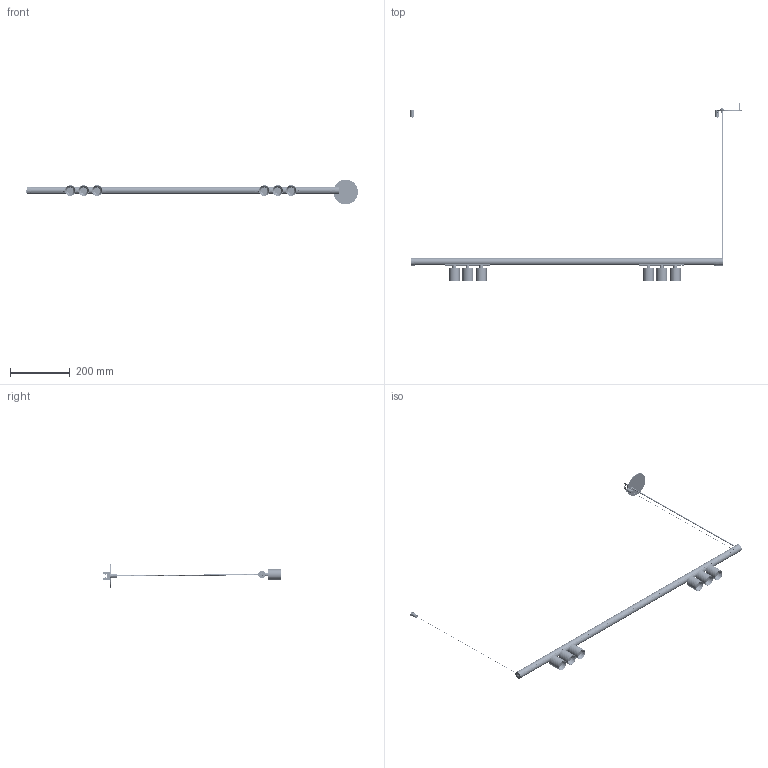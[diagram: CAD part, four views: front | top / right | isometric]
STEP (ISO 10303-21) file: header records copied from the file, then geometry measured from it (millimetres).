
FILE_DESCRIPTION (( 'STEP AP214' ), '1' );
FILE_NAME ('OVAL ROLL 10 rec.STEP', '2024-03-21T09:36:19', ( '' ), ( '' ), 'SwSTEP 2.0', 'SolidWorks 2024', '' );
FILE_SCHEMA (( 'AUTOMOTIVE_DESIGN' ));
Length unit declared in the file: millimetre
Products named in the file (39): Reflector Modulo VS-R11_2; Tapa Micro V5_V5.1; Difusor Negro Oval_0.56m; Led VS MISTER 11_Disipador; Tapa Alimentación Perfil_SCPRE; Taco cuerpo Micro; CJ05-ENS_Roll (V1.2)_Proyector; Difusor Negro Oval_0.1m; Tuerca Hembra Conector Jack; Tuerca M8_Predeterminada; 04-23DM08-Adaptador_Tapa_ Largo (V1.2)_24V; Perfil Micro V4_1m; CJ04-FOCO ROLL; Ensamble Tensor Micro_Con Cable; Regulador Cable Ø0.6 (Bereta LT1007.0601); Ensamble Tapa + Tope_Con Conector; Prisionero STEAB M4x4_8; CUI_DEVICES_PJ-005B_Ø2.5; COB VS MisterR11; Tapa Unión-Final V5_V5.1 Colgante Union ; Ensamble Conector Jack Unión_Alimentación Colgante SCPRE; Cable acero_0.5m; Ensamble MISTER 11 24V_Click; Cable_VISUAL Alimentación Micro; Floron U Muelle MICRO; 04-23DM07-Adaptador_Caja_ Larga_DM01.3; OVAL ROLL 10 rec; Conector Molex Hembra 43020; 04-23DM09-Cuerpo Roll 24V; Tapa Floron Emp. MICRO_Tapa empotarable; 04-23DM03-Tope_Adaptador_1.3; Jack_Scpre; Ensamblaje FLORON EMP. MICRO; Driver Entity EN1689; eje cable colgante_M8 MICRO; 04-23DM10-Boca Roll 24V_Ajust 1.0; Taco Micro_Ø10 M10*5; Difusor Ø24_.8; Tija Tiny_Torno
Assembly tree (46 placements, depth 5):
  OVAL ROLL 10 rec
    Perfil Micro V4_1m
    CJ05-ENS_Roll (V1.2)_Proyector  x2
      04-23DM07-Adaptador_Caja_ Larga_DM01.3
      04-23DM08-Adaptador_Tapa_ Largo (V1.2)_24V
      Conector Molex Hembra 43020
      Driver Entity EN1689
      04-23DM03-Tope_Adaptador_1.3
      CJ04-FOCO ROLL
        04-23DM09-Cuerpo Roll 24V
        Ensamble MISTER 11 24V_Click
          Led VS MISTER 11_Disipador
          Reflector Modulo VS-R11_2
          COB VS MisterR11
          Difusor Ø24_.8
          04-23DM10-Boca Roll 24V_Ajust 1.0
      Tija Tiny_Torno
    Difusor Negro Oval_0.1m  x2
    Difusor Negro Oval_0.56m
    Ensamble Tapa + Tope_Con Conector  x2
      Tapa Micro V5_V5.1
      CUI_DEVICES_PJ-005B_Ø2.5
      Tuerca Hembra Conector Jack
    Ensamble Tensor Micro_Con Cable  x2
      Taco Micro_Ø10 M10*5
      Taco cuerpo Micro
      Regulador Cable Ø0.6 (Bereta LT1007.0601)
      Cable acero_0.5m
    Tapa Unión-Final V5_V5.1 Colgante Union   x2
    Ensamble Conector Jack Unión_Alimentación Colgante SCPRE
      Cable_VISUAL Alimentación Micro
      Jack_Scpre
      Tapa Alimentación Perfil_SCPRE
      Prisionero STEAB M4x4_8
    Ensamblaje FLORON EMP. MICRO
      Tapa Floron Emp. MICRO_Tapa empotarable
      Floron U Muelle MICRO
      eje cable colgante_M8 MICRO
      Tuerca M8_Predeterminada
Bounding box: 1111.94 x 597.37 x 83.01 mm (x, y, z)
Volume: 349493.9 mm3; surface area: 444676.3 mm2
Topology: 79 solids, 81 shells, 11420 faces, 29766 edges, 18643 vertices
Faces by surface type: cylinder 3167, plane 3078, bspline 2997, torus 1099, cone 785, sphere 294
Entity records: 168451 total; most frequent: CARTESIAN_POINT 94452, ORIENTED_EDGE 16666, DIRECTION 13415, EDGE_CURVE 8333, VERTEX_POINT 5269, AXIS2_PLACEMENT_3D 5014, EDGE_LOOP 3410, VECTOR 3387
